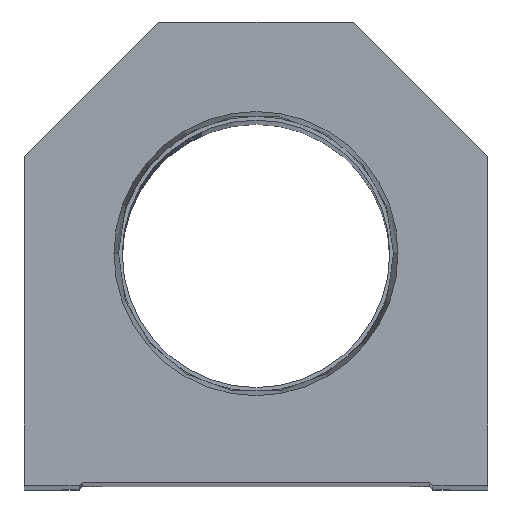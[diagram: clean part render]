
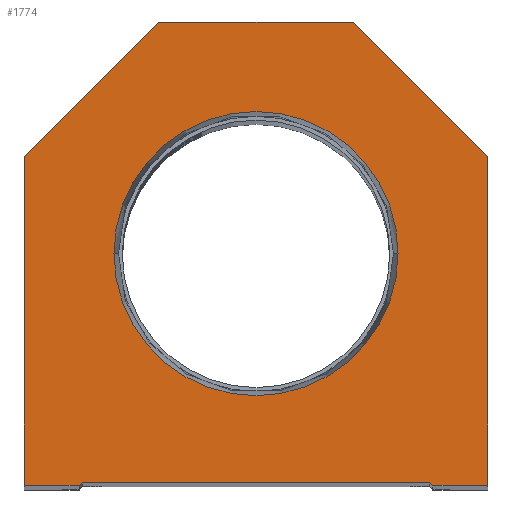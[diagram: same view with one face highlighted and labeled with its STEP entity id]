
A CAD part, top view. The second image highlights one B-rep face of the part: STEP entity #1774.
In plain terms, the highlighted planar face has unit normal (0, 0, 1).
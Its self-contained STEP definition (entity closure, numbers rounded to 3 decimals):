
#121 = DIRECTION ( 'NONE',  ( 1., 0., 0. ) ) ;
#156 = DIRECTION ( 'NONE',  ( 1., 0., 0. ) ) ;
#285 = CARTESIAN_POINT ( 'NONE',  ( -23.374, 38.1, 0. ) ) ;
#366 = DIRECTION ( 'NONE',  ( 0., 1., 0. ) ) ;
#782 = CARTESIAN_POINT ( 'NONE',  ( -28.6, 0.5, 0. ) ) ;
#1098 = VECTOR ( 'NONE', #13544, 1000. ) ;
#1238 = CARTESIAN_POINT ( 'NONE',  ( 28.6, 0., 0. ) ) ;
#1602 = EDGE_CURVE ( 'NONE', #13337, #17602, #10200, .T. ) ;
#1607 = LINE ( 'NONE', #7744, #7343 ) ;
#1647 = LINE ( 'NONE', #13978, #17271 ) ;
#1732 = ORIENTED_EDGE ( 'NONE', *, *, #13918, .T. ) ;
#1774 = ADVANCED_FACE ( 'NONE', ( #10043, #1963 ), #3640, .T. ) ;
#1938 = DIRECTION ( 'NONE',  ( -1., 0., 0. ) ) ;
#1963 = FACE_OUTER_BOUND ( 'NONE', #14652, .T. ) ;
#2047 = CARTESIAN_POINT ( 'NONE',  ( 0., 0., 0. ) ) ;
#2169 = ORIENTED_EDGE ( 'NONE', *, *, #1602, .F. ) ;
#2278 = ORIENTED_EDGE ( 'NONE', *, *, #2618, .T. ) ;
#2530 = ORIENTED_EDGE ( 'NONE', *, *, #11799, .T. ) ;
#2618 = EDGE_CURVE ( 'NONE', #18190, #8579, #3319, .T. ) ;
#2643 = EDGE_LOOP ( 'NONE', ( #14707, #2169 ) ) ;
#2766 = VERTEX_POINT ( 'NONE', #5576 ) ;
#3103 = VERTEX_POINT ( 'NONE', #15201 ) ;
#3168 = DIRECTION ( 'NONE',  ( 0., 0., 1. ) ) ;
#3319 = LINE ( 'NONE', #18524, #5697 ) ;
#3640 = PLANE ( 'NONE',  #18629 ) ;
#3870 = VERTEX_POINT ( 'NONE', #7488 ) ;
#3912 = ORIENTED_EDGE ( 'NONE', *, *, #10847, .T. ) ;
#4156 = ORIENTED_EDGE ( 'NONE', *, *, #18622, .T. ) ;
#4226 = ORIENTED_EDGE ( 'NONE', *, *, #9170, .T. ) ;
#4352 = AXIS2_PLACEMENT_3D ( 'NONE', #7928, #18687, #11066 ) ;
#4759 = VECTOR ( 'NONE', #19142, 1000. ) ;
#5097 = LINE ( 'NONE', #782, #11624 ) ;
#5170 = DIRECTION ( 'NONE',  ( 1., 0., 0. ) ) ;
#5205 = VECTOR ( 'NONE', #11117, 1000. ) ;
#5245 = CARTESIAN_POINT ( 'NONE',  ( -14.55, 14.55, 0. ) ) ;
#5576 = CARTESIAN_POINT ( 'NONE',  ( 29.1, 0., 0. ) ) ;
#5697 = VECTOR ( 'NONE', #1938, 1000. ) ;
#6150 = DIRECTION ( 'NONE',  ( 1., 0., 0. ) ) ;
#6229 = DIRECTION ( 'NONE',  ( -0.707, -0.707, 0. ) ) ;
#6251 = CARTESIAN_POINT ( 'NONE',  ( 38.1, 54.1, 0. ) ) ;
#6363 = LINE ( 'NONE', #12552, #6718 ) ;
#6694 = EDGE_CURVE ( 'NONE', #17602, #13337, #19299, .T. ) ;
#6718 = VECTOR ( 'NONE', #18733, 1000. ) ;
#6964 = CARTESIAN_POINT ( 'NONE',  ( 14.55, 14.55, 0. ) ) ;
#7343 = VECTOR ( 'NONE', #6229, 1000. ) ;
#7488 = CARTESIAN_POINT ( 'NONE',  ( 38.1, 0., 0. ) ) ;
#7556 = VERTEX_POINT ( 'NONE', #15333 ) ;
#7707 = ORIENTED_EDGE ( 'NONE', *, *, #19939, .T. ) ;
#7744 = CARTESIAN_POINT ( 'NONE',  ( -38.1, 54.1, 0. ) ) ;
#7928 = CARTESIAN_POINT ( 'NONE',  ( 0., 38.1, 0. ) ) ;
#8023 = LINE ( 'NONE', #14208, #10643 ) ;
#8044 = CARTESIAN_POINT ( 'NONE',  ( 23.374, 38.1, 0. ) ) ;
#8208 = CARTESIAN_POINT ( 'NONE',  ( -16., 76.2, 0. ) ) ;
#8579 = VERTEX_POINT ( 'NONE', #8208 ) ;
#8603 = VECTOR ( 'NONE', #6150, 1000. ) ;
#9170 = EDGE_CURVE ( 'NONE', #3870, #16480, #8023, .T. ) ;
#9927 = LINE ( 'NONE', #5245, #5205 ) ;
#10043 = FACE_BOUND ( 'NONE', #2643, .T. ) ;
#10108 = LINE ( 'NONE', #6964, #4759 ) ;
#10200 = CIRCLE ( 'NONE', #4352, 23.374 ) ;
#10643 = VECTOR ( 'NONE', #366, 1000. ) ;
#10847 = EDGE_CURVE ( 'NONE', #3103, #11020, #5097, .T. ) ;
#11020 = VERTEX_POINT ( 'NONE', #12887 ) ;
#11066 = DIRECTION ( 'NONE',  ( 1., 0., 0. ) ) ;
#11117 = DIRECTION ( 'NONE',  ( 0.707, 0.707, 0. ) ) ;
#11241 = CARTESIAN_POINT ( 'NONE',  ( -38.1, 0., 0. ) ) ;
#11624 = VECTOR ( 'NONE', #13110, 1000. ) ;
#11799 = EDGE_CURVE ( 'NONE', #7556, #3103, #9927, .T. ) ;
#12188 = ORIENTED_EDGE ( 'NONE', *, *, #14762, .T. ) ;
#12552 = CARTESIAN_POINT ( 'NONE',  ( -38.1, 0., 0. ) ) ;
#12887 = CARTESIAN_POINT ( 'NONE',  ( 28.6, 0.5, 0. ) ) ;
#13102 = ORIENTED_EDGE ( 'NONE', *, *, #18079, .T. ) ;
#13110 = DIRECTION ( 'NONE',  ( 1., 0., 0. ) ) ;
#13232 = CARTESIAN_POINT ( 'NONE',  ( -38.1, 54.1, 0. ) ) ;
#13337 = VERTEX_POINT ( 'NONE', #285 ) ;
#13339 = LINE ( 'NONE', #16358, #1098 ) ;
#13544 = DIRECTION ( 'NONE',  ( -0.707, 0.707, 0. ) ) ;
#13918 = EDGE_CURVE ( 'NONE', #15661, #7556, #1647, .T. ) ;
#13978 = CARTESIAN_POINT ( 'NONE',  ( -28.6, 0., 0. ) ) ;
#14208 = CARTESIAN_POINT ( 'NONE',  ( 38.1, 0., 0. ) ) ;
#14652 = EDGE_LOOP ( 'NONE', ( #1732, #2530, #3912, #19409, #13102, #4226, #12188, #2278, #4156, #7707 ) ) ;
#14707 = ORIENTED_EDGE ( 'NONE', *, *, #6694, .F. ) ;
#14762 = EDGE_CURVE ( 'NONE', #16480, #18190, #13339, .T. ) ;
#14963 = LINE ( 'NONE', #1238, #8603 ) ;
#15201 = CARTESIAN_POINT ( 'NONE',  ( -28.6, 0.5, 0. ) ) ;
#15333 = CARTESIAN_POINT ( 'NONE',  ( -29.1, 0., 0. ) ) ;
#15661 = VERTEX_POINT ( 'NONE', #11241 ) ;
#15952 = VERTEX_POINT ( 'NONE', #13232 ) ;
#16358 = CARTESIAN_POINT ( 'NONE',  ( 38.1, 54.1, 0. ) ) ;
#16480 = VERTEX_POINT ( 'NONE', #6251 ) ;
#17018 = AXIS2_PLACEMENT_3D ( 'NONE', #17058, #3168, #156 ) ;
#17058 = CARTESIAN_POINT ( 'NONE',  ( 0., 38.1, 0. ) ) ;
#17271 = VECTOR ( 'NONE', #121, 1000. ) ;
#17411 = CARTESIAN_POINT ( 'NONE',  ( 16., 76.2, 0. ) ) ;
#17544 = DIRECTION ( 'NONE',  ( 0., 0., 1. ) ) ;
#17602 = VERTEX_POINT ( 'NONE', #8044 ) ;
#18079 = EDGE_CURVE ( 'NONE', #2766, #3870, #14963, .T. ) ;
#18190 = VERTEX_POINT ( 'NONE', #17411 ) ;
#18524 = CARTESIAN_POINT ( 'NONE',  ( 16., 76.2, 0. ) ) ;
#18622 = EDGE_CURVE ( 'NONE', #8579, #15952, #1607, .T. ) ;
#18629 = AXIS2_PLACEMENT_3D ( 'NONE', #2047, #17544, #5170 ) ;
#18687 = DIRECTION ( 'NONE',  ( 0., 0., 1. ) ) ;
#18733 = DIRECTION ( 'NONE',  ( 0., -1., 0. ) ) ;
#19142 = DIRECTION ( 'NONE',  ( 0.707, -0.707, 0. ) ) ;
#19299 = CIRCLE ( 'NONE', #17018, 23.374 ) ;
#19409 = ORIENTED_EDGE ( 'NONE', *, *, #20014, .T. ) ;
#19939 = EDGE_CURVE ( 'NONE', #15952, #15661, #6363, .T. ) ;
#20014 = EDGE_CURVE ( 'NONE', #11020, #2766, #10108, .T. ) ;
